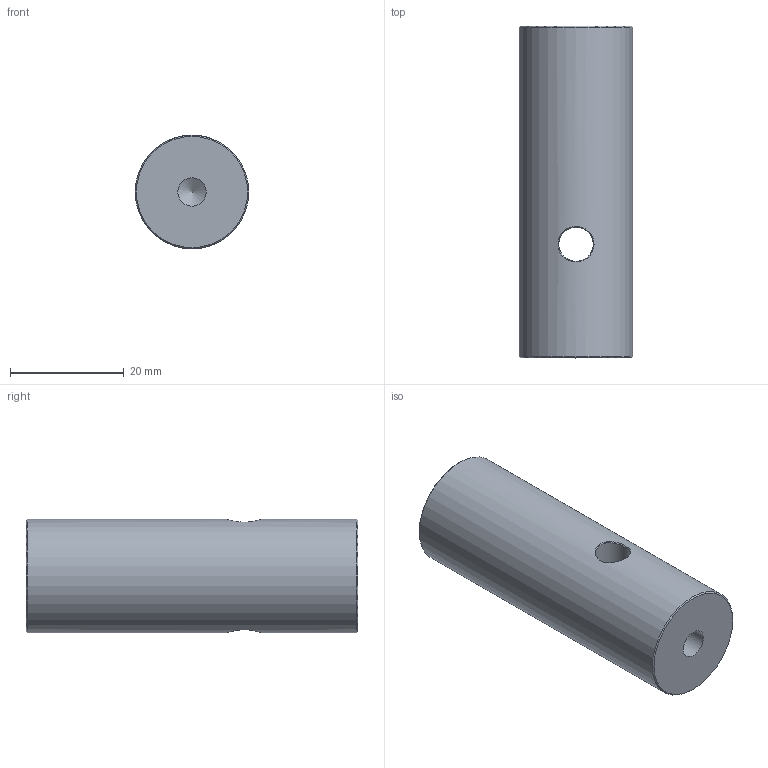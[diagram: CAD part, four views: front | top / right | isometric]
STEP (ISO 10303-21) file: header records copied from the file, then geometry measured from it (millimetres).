
FILE_DESCRIPTION (( 'STEP AP214' ), '1' );
FILE_NAME ('58_41mm 諉裝_phi_25.STEP', '2026-10-31T08:36:24', ( '' ), ( '' ), 'SwSTEP 2.0', 'SolidWorks 2022', '' );
FILE_SCHEMA (( 'AUTOMOTIVE_DESIGN' ));
Length unit declared in the file: millimetre
Products named in the file (1): 58_41mm 諉裝_phi_25
Bounding box: 20 x 58.41 x 20 mm (x, y, z)
Volume: 17461.8 mm3; surface area: 4892.5 mm2
Topology: 1 solids, 1 shells, 12 faces, 28 edges, 17 vertices
Faces by surface type: cylinder 4, cone 4, plane 2, bspline 2
Full cylindrical faces by diameter (mm): 3.3 x1, 5 x1, 6.05 x1, 20 x1
Entity records: 2629 total; most frequent: CARTESIAN_POINT 2380, DIRECTION 38, EDGE_LOOP 24, ORIENTED_EDGE 24, AXIS2_PLACEMENT_3D 19, FACE_OUTER_BOUND 18, EDGE_CURVE 12, VERTEX_POINT 12
